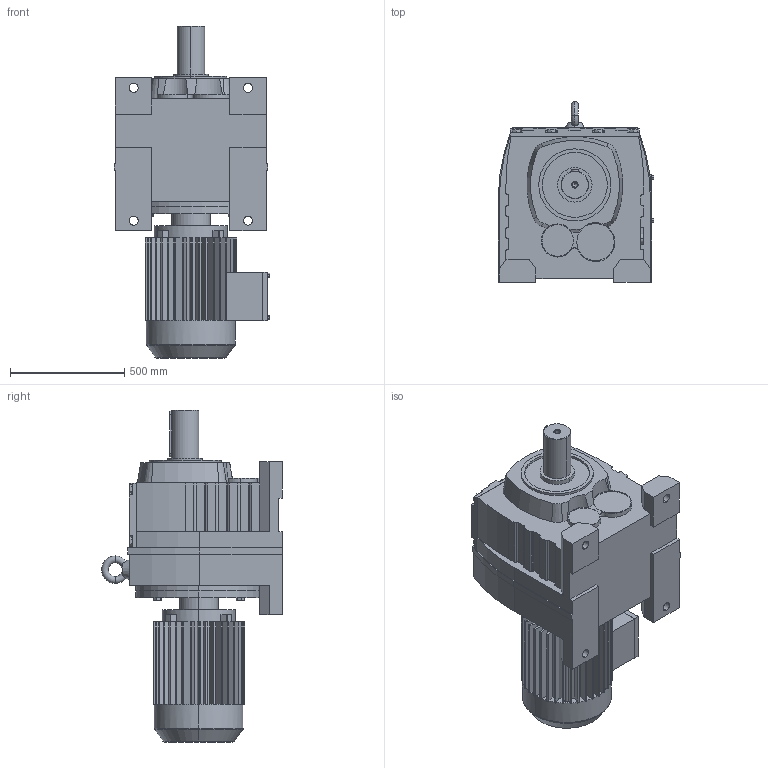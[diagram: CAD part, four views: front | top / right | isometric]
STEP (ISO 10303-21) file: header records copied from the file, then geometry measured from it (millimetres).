
FILE_DESCRIPTION(('Open CASCADE Model'),'2;1');
FILE_NAME('Open CASCADE Shape Model','2021-06-23T16:24:48',('Author'),( 'Open CASCADE'),'Open CASCADE STEP processor 6.3','Open CASCADE 6.3' ,'Unknown');
FILE_SCHEMA(('AUTOMOTIVE_DESIGN_CC2 { 1 2 10303 214 -1 1 5 4 }'));
Length unit declared in the file: millimetre
Products named in the file (3): 1_R167-Y200L; R37‵167_167.step; 萇儂_550_Y200L.step
Assembly tree (2 placements, depth 2):
  1_R167-Y200L
    R37‵167_167.step
    萇儂_550_Y200L.step
Bounding box: 680 x 790 x 1450 mm (x, y, z)
Volume: 282875155.9 mm3; surface area: 5078538.8 mm2
Topology: 2 solids, 2 shells, 735 faces, 1950 edges, 1261 vertices
Faces by surface type: plane 520, cylinder 185, cone 20, torus 10
Entity records: 51213 total; most frequent: CARTESIAN_POINT 13985, DIRECTION 6494, ORIENTED_EDGE 3896, PCURVE 3896, DEFINITIONAL_REPRESENTATION 3896, LINE 3635, VECTOR 3635, EDGE_CURVE 1948
